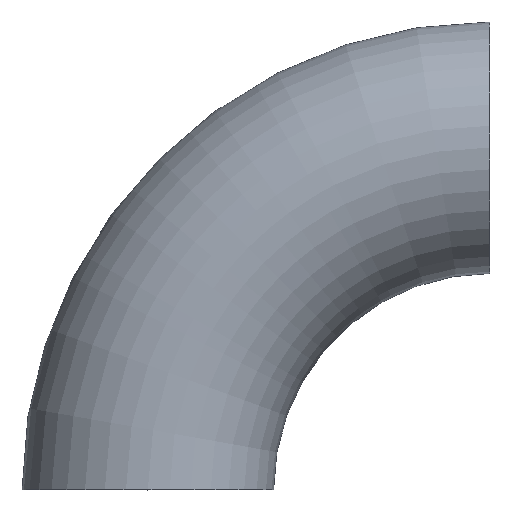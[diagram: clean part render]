
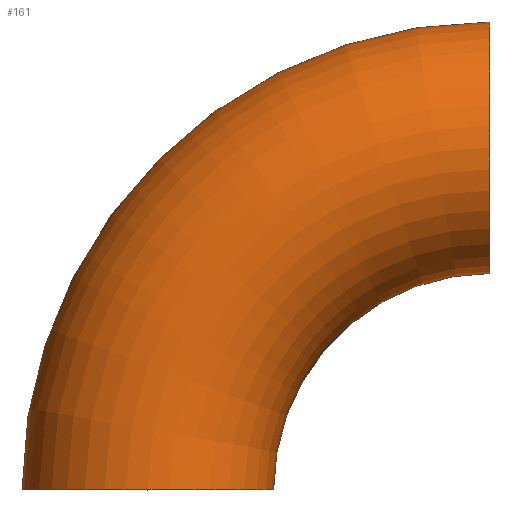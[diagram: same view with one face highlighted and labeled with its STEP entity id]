
A CAD part, top view. The second image highlights one B-rep face of the part: STEP entity #161.
In plain terms, the highlighted toroidal (fillet/blend) face has major radius 190 mm and minor radius 69.85 mm.
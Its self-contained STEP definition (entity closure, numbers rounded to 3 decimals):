
#6 = DIRECTION ( 'NONE',  ( 0., 0., 1. ) ) ;
#19 = AXIS2_PLACEMENT_3D ( 'NONE', #162, #60, #43 ) ;
#22 = CARTESIAN_POINT ( 'NONE',  ( 69.85, 0., 0. ) ) ;
#26 = CIRCLE ( 'NONE', #201, 120.15 ) ;
#30 = AXIS2_PLACEMENT_3D ( 'NONE', #125, #241, #6 ) ;
#43 = DIRECTION ( 'NONE',  ( 0., 0., 1. ) ) ;
#45 = EDGE_LOOP ( 'NONE', ( #58, #160, #120, #151 ) ) ;
#51 = VERTEX_POINT ( 'NONE', #251 ) ;
#56 = EDGE_CURVE ( 'NONE', #51, #104, #114, .T. ) ;
#58 = ORIENTED_EDGE ( 'NONE', *, *, #100, .F. ) ;
#60 = DIRECTION ( 'NONE',  ( 0., 1., 0. ) ) ;
#61 = CIRCLE ( 'NONE', #230, 259.85 ) ;
#64 = DIRECTION ( 'NONE',  ( 1., 0., 0. ) ) ;
#65 = CARTESIAN_POINT ( 'NONE',  ( 190., 0., 0. ) ) ;
#68 = DIRECTION ( 'NONE',  ( 0., 0., 1. ) ) ;
#70 = DIRECTION ( 'NONE',  ( 1., 0., 0. ) ) ;
#72 = CARTESIAN_POINT ( 'NONE',  ( 190., 0., 0. ) ) ;
#85 = CARTESIAN_POINT ( 'NONE',  ( 190., 120.15, 0. ) ) ;
#87 = CARTESIAN_POINT ( 'NONE',  ( 190., 259.85, 0. ) ) ;
#88 = FACE_OUTER_BOUND ( 'NONE', #45, .T. ) ;
#94 = VERTEX_POINT ( 'NONE', #85 ) ;
#100 = EDGE_CURVE ( 'NONE', #240, #94, #249, .T. ) ;
#102 = DIRECTION ( 'NONE',  ( 0., 0., 1. ) ) ;
#104 = VERTEX_POINT ( 'NONE', #22 ) ;
#114 = CIRCLE ( 'NONE', #19, 69.85 ) ;
#120 = ORIENTED_EDGE ( 'NONE', *, *, #56, .T. ) ;
#125 = CARTESIAN_POINT ( 'NONE',  ( 190., 190., 0. ) ) ;
#151 = ORIENTED_EDGE ( 'NONE', *, *, #188, .F. ) ;
#160 = ORIENTED_EDGE ( 'NONE', *, *, #181, .T. ) ;
#161 = ADVANCED_FACE ( 'NONE', ( #88 ), #218, .T. ) ;
#162 = CARTESIAN_POINT ( 'NONE',  ( 0., 0., 0. ) ) ;
#174 = AXIS2_PLACEMENT_3D ( 'NONE', #72, #235, #64 ) ;
#181 = EDGE_CURVE ( 'NONE', #240, #51, #61, .T. ) ;
#184 = CARTESIAN_POINT ( 'NONE',  ( 190., 0., 0. ) ) ;
#185 = DIRECTION ( 'NONE',  ( 1., 0., 0. ) ) ;
#188 = EDGE_CURVE ( 'NONE', #94, #104, #26, .T. ) ;
#201 = AXIS2_PLACEMENT_3D ( 'NONE', #184, #102, #70 ) ;
#218 = TOROIDAL_SURFACE ( 'NONE', #174, 190., 69.85 ) ;
#230 = AXIS2_PLACEMENT_3D ( 'NONE', #65, #68, #185 ) ;
#235 = DIRECTION ( 'NONE',  ( 0., 0., 1. ) ) ;
#240 = VERTEX_POINT ( 'NONE', #87 ) ;
#241 = DIRECTION ( 'NONE',  ( 1., 0., 0. ) ) ;
#249 = CIRCLE ( 'NONE', #30, 69.85 ) ;
#251 = CARTESIAN_POINT ( 'NONE',  ( -69.85, 0., 0. ) ) ;
